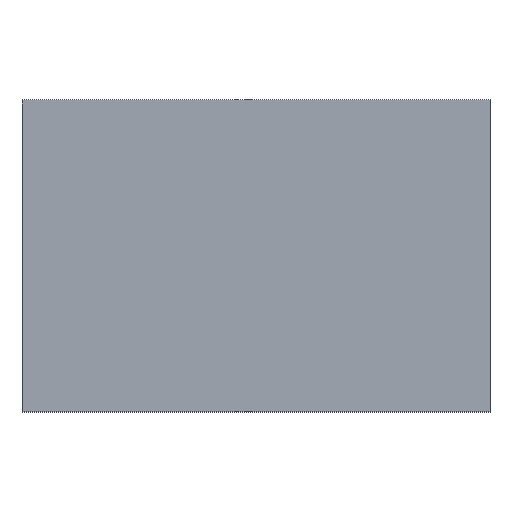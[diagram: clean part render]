
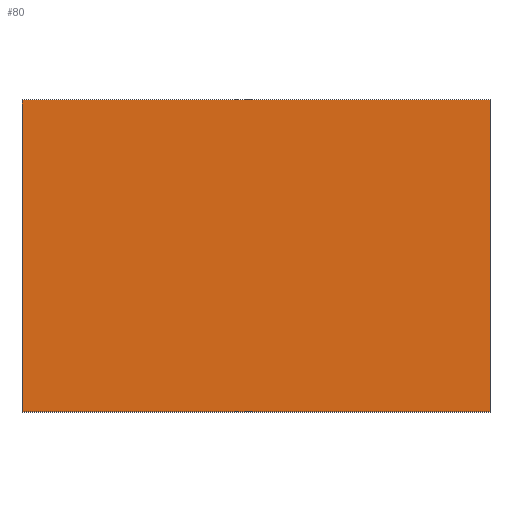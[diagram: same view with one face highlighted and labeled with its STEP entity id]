
A CAD part, top view. The second image highlights one B-rep face of the part: STEP entity #80.
In plain terms, the highlighted planar face has unit normal (0, 0, 1).
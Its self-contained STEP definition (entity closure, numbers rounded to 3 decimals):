
#80 = ADVANCED_FACE( '', ( #92 ), #93, .T. );
#92 = FACE_OUTER_BOUND( '', #104, .T. );
#93 = PLANE( '', #105 );
#104 = EDGE_LOOP( '', ( #141, #142, #143, #144 ) );
#105 = AXIS2_PLACEMENT_3D( '', #145, #146, #147 );
#141 = ORIENTED_EDGE( '', *, *, #159, .T. );
#142 = ORIENTED_EDGE( '', *, *, #150, .T. );
#143 = ORIENTED_EDGE( '', *, *, #154, .T. );
#144 = ORIENTED_EDGE( '', *, *, #157, .T. );
#145 = CARTESIAN_POINT( '', ( 0., 0., 0. ) );
#146 = DIRECTION( '', ( 0., 0., 1. ) );
#147 = DIRECTION( '', ( 1., 0., 0. ) );
#150 = EDGE_CURVE( '', #165, #163, #166, .T. );
#154 = EDGE_CURVE( '', #163, #170, #172, .T. );
#157 = EDGE_CURVE( '', #170, #175, #177, .T. );
#159 = EDGE_CURVE( '', #175, #165, #179, .T. );
#163 = VERTEX_POINT( '', #184 );
#165 = VERTEX_POINT( '', #187 );
#166 = LINE( '', #188, #189 );
#170 = VERTEX_POINT( '', #195 );
#172 = LINE( '', #198, #199 );
#175 = VERTEX_POINT( '', #203 );
#177 = LINE( '', #206, #207 );
#179 = LINE( '', #210, #211 );
#184 = CARTESIAN_POINT( '', ( 13.5, -9., 0. ) );
#187 = CARTESIAN_POINT( '', ( -13.5, -9., 0. ) );
#188 = CARTESIAN_POINT( '', ( -13.5, -9., 0. ) );
#189 = VECTOR( '', #214, 1. );
#195 = CARTESIAN_POINT( '', ( 13.5, 9., 0. ) );
#198 = CARTESIAN_POINT( '', ( 13.5, -9., 0. ) );
#199 = VECTOR( '', #218, 1. );
#203 = CARTESIAN_POINT( '', ( -13.5, 9., 0. ) );
#206 = CARTESIAN_POINT( '', ( 13.5, 9., 0. ) );
#207 = VECTOR( '', #221, 1. );
#210 = CARTESIAN_POINT( '', ( -13.5, 9., 0. ) );
#211 = VECTOR( '', #223, 1. );
#214 = DIRECTION( '', ( 1., 0., 0. ) );
#218 = DIRECTION( '', ( 0., 1., 0. ) );
#221 = DIRECTION( '', ( -1., 0., 0. ) );
#223 = DIRECTION( '', ( 0., -1., 0. ) );
